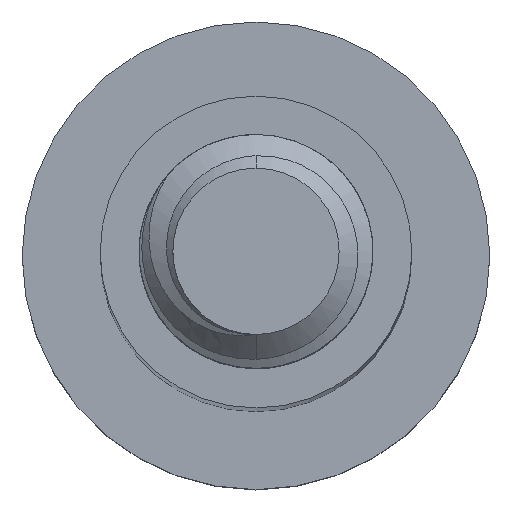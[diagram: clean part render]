
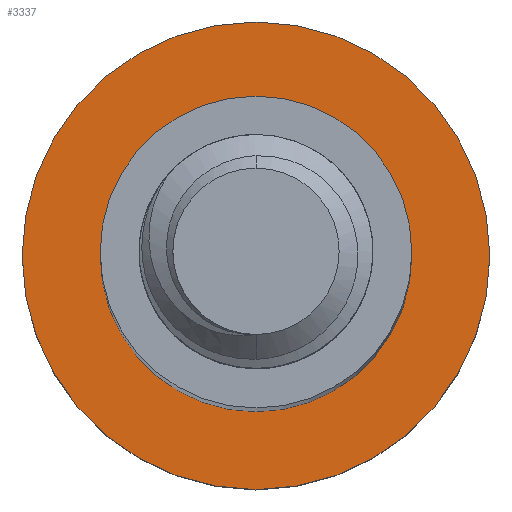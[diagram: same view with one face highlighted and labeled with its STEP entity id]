
A CAD part, top view. The second image highlights one B-rep face of the part: STEP entity #3337.
In plain terms, the highlighted planar face has unit normal (0, 0, 1).
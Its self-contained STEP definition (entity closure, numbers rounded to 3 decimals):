
#163 = ORIENTED_EDGE ( 'NONE', *, *, #2424, .T. ) ;
#303 = DIRECTION ( 'NONE',  ( 0., 0., -1. ) ) ;
#332 = VERTEX_POINT ( 'NONE', #439 ) ;
#391 = AXIS2_PLACEMENT_3D ( 'NONE', #2521, #3141, #4161 ) ;
#439 = CARTESIAN_POINT ( 'NONE',  ( 4., 0., -55. ) ) ;
#480 = DIRECTION ( 'NONE',  ( -1., 0., 0. ) ) ;
#588 = DIRECTION ( 'NONE',  ( -1., 0., 0. ) ) ;
#763 = CARTESIAN_POINT ( 'NONE',  ( 6., 0., -55. ) ) ;
#806 = DIRECTION ( 'NONE',  ( 0., 0., -1. ) ) ;
#924 = ORIENTED_EDGE ( 'NONE', *, *, #3764, .F. ) ;
#983 = CARTESIAN_POINT ( 'NONE',  ( -6., 0., -55. ) ) ;
#1147 = FACE_BOUND ( 'NONE', #1203, .T. ) ;
#1190 = AXIS2_PLACEMENT_3D ( 'NONE', #2228, #3541, #588 ) ;
#1203 = EDGE_LOOP ( 'NONE', ( #163, #3002 ) ) ;
#1337 = EDGE_LOOP ( 'NONE', ( #2058, #924 ) ) ;
#1521 = EDGE_CURVE ( 'NONE', #332, #3660, #3171, .T. ) ;
#1522 = CARTESIAN_POINT ( 'NONE',  ( 0., 0., -55. ) ) ;
#1630 = DIRECTION ( 'NONE',  ( -1., 0., 0. ) ) ;
#1647 = AXIS2_PLACEMENT_3D ( 'NONE', #1780, #806, #480 ) ;
#1780 = CARTESIAN_POINT ( 'NONE',  ( 0., 0., -55. ) ) ;
#1808 = CIRCLE ( 'NONE', #1190, 4. ) ;
#1916 = CIRCLE ( 'NONE', #1647, 6. ) ;
#1952 = CARTESIAN_POINT ( 'NONE',  ( 0., 0., -55. ) ) ;
#1960 = VERTEX_POINT ( 'NONE', #983 ) ;
#2058 = ORIENTED_EDGE ( 'NONE', *, *, #2158, .F. ) ;
#2158 = EDGE_CURVE ( 'NONE', #3653, #1960, #2958, .T. ) ;
#2228 = CARTESIAN_POINT ( 'NONE',  ( 0., 0., -55. ) ) ;
#2279 = AXIS2_PLACEMENT_3D ( 'NONE', #1952, #303, #1630 ) ;
#2424 = EDGE_CURVE ( 'NONE', #3660, #332, #1808, .T. ) ;
#2521 = CARTESIAN_POINT ( 'NONE',  ( 0., 0., -55. ) ) ;
#2843 = PLANE ( 'NONE',  #391 ) ;
#2958 = CIRCLE ( 'NONE', #2279, 6. ) ;
#3002 = ORIENTED_EDGE ( 'NONE', *, *, #1521, .T. ) ;
#3024 = AXIS2_PLACEMENT_3D ( 'NONE', #1522, #3093, #3138 ) ;
#3093 = DIRECTION ( 'NONE',  ( 0., 0., -1. ) ) ;
#3138 = DIRECTION ( 'NONE',  ( -1., 0., 0. ) ) ;
#3141 = DIRECTION ( 'NONE',  ( 0., 0., -1. ) ) ;
#3171 = CIRCLE ( 'NONE', #3024, 4. ) ;
#3337 = ADVANCED_FACE ( 'NONE', ( #1147, #3773 ), #2843, .F. ) ;
#3483 = CARTESIAN_POINT ( 'NONE',  ( -4., 0., -55. ) ) ;
#3541 = DIRECTION ( 'NONE',  ( 0., 0., -1. ) ) ;
#3653 = VERTEX_POINT ( 'NONE', #763 ) ;
#3660 = VERTEX_POINT ( 'NONE', #3483 ) ;
#3764 = EDGE_CURVE ( 'NONE', #1960, #3653, #1916, .T. ) ;
#3773 = FACE_OUTER_BOUND ( 'NONE', #1337, .T. ) ;
#4161 = DIRECTION ( 'NONE',  ( -1., 0., 0. ) ) ;
